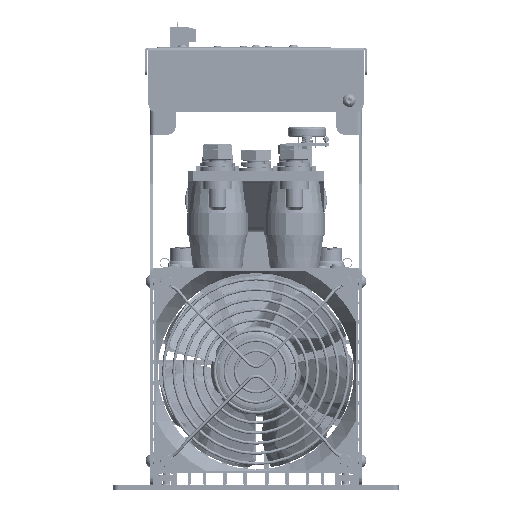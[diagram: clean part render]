
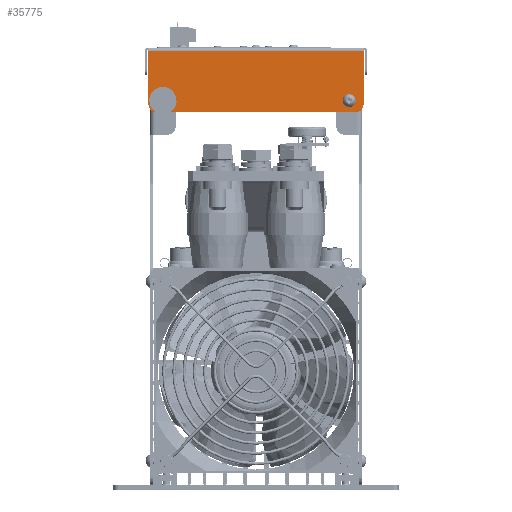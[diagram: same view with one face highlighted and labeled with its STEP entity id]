
A CAD part, front view. The second image highlights one B-rep face of the part: STEP entity #35775.
In plain terms, the highlighted planar face has unit normal (0, -1, 0).
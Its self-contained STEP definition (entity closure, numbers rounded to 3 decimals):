
#35775=ADVANCED_FACE('',(#87149,#87151,#87153),#87155,.F.);
#87149=FACE_BOUND('',#87150,.T.);
#87150=EDGE_LOOP('',(#103530,#103531,#103532,#103533,#103534,#103535));
#87151=FACE_BOUND('',#87152,.T.);
#87152=EDGE_LOOP('',(#103536));
#87153=FACE_BOUND('',#87154,.T.);
#87154=EDGE_LOOP('',(#103537));
#87155=PLANE('',#87156);
#87156=AXIS2_PLACEMENT_3D('',#87157,#87158,#87159);
#87157=CARTESIAN_POINT('',(63.,-222.5,0.));
#87158=DIRECTION('',(0.,1.,0.));
#87159=DIRECTION('',(0.,0.,1.));
#103530=ORIENTED_EDGE('',*,*,#112431,.T.);
#103531=ORIENTED_EDGE('',*,*,#112432,.T.);
#103532=ORIENTED_EDGE('',*,*,#112428,.T.);
#103533=ORIENTED_EDGE('',*,*,#112423,.F.);
#103534=ORIENTED_EDGE('',*,*,#112427,.T.);
#103535=ORIENTED_EDGE('',*,*,#112433,.T.);
#103536=ORIENTED_EDGE('',*,*,#112206,.T.);
#103537=ORIENTED_EDGE('',*,*,#112210,.T.);
#112206=EDGE_CURVE('',#124274,#124274,#124275,.T.);
#112210=EDGE_CURVE('',#124282,#124282,#124283,.T.);
#112423=EDGE_CURVE('',#124643,#124637,#124646,.T.);
#112427=EDGE_CURVE('',#124643,#124650,#124652,.T.);
#112428=EDGE_CURVE('',#124653,#124637,#124654,.T.);
#112431=EDGE_CURVE('',#124658,#124659,#124660,.T.);
#112432=EDGE_CURVE('',#124659,#124653,#124661,.T.);
#112433=EDGE_CURVE('',#124650,#124658,#124662,.T.);
#124274=VERTEX_POINT('',#191650);
#124275=CIRCLE('',#191651,2.25);
#124282=VERTEX_POINT('',#191670);
#124283=CIRCLE('',#191671,2.25);
#124637=VERTEX_POINT('',#192498);
#124643=VERTEX_POINT('',#192515);
#124646=LINE('',#192523,#192524);
#124650=VERTEX_POINT('',#192533);
#124652=LINE('',#192537,#192538);
#124653=VERTEX_POINT('',#192540);
#124654=LINE('',#192541,#192542);
#124658=VERTEX_POINT('',#192551);
#124659=VERTEX_POINT('',#192552);
#124660=LINE('',#192553,#192554);
#124661=CIRCLE('',#192556,5.);
#124662=CIRCLE('',#192560,5.);
#191650=CARTESIAN_POINT('',(54.5,-222.5,-27.75));
#191651=AXIS2_PLACEMENT_3D('',#191652,#191653,#191654);
#191652=CARTESIAN_POINT('',(54.5,-222.5,-30.));
#191653=DIRECTION('',(0.,1.,0.));
#191654=DIRECTION('',(0.,0.,-1.));
#191670=CARTESIAN_POINT('',(-54.5,-222.5,-27.75));
#191671=AXIS2_PLACEMENT_3D('',#191672,#191673,#191674);
#191672=CARTESIAN_POINT('',(-54.5,-222.5,-30.));
#191673=DIRECTION('',(0.,1.,0.));
#191674=DIRECTION('',(0.,0.,-1.));
#192498=CARTESIAN_POINT('',(63.,-222.5,-1.));
#192515=CARTESIAN_POINT('',(-63.,-222.5,-1.));
#192523=CARTESIAN_POINT('',(-63.,-222.5,-1.));
#192524=VECTOR('',#192525,1.);
#192525=DIRECTION('',(1.,0.,0.));
#192533=CARTESIAN_POINT('',(-63.,-222.5,-32.));
#192537=CARTESIAN_POINT('',(-63.,-222.5,-1.));
#192538=VECTOR('',#192539,1.);
#192539=DIRECTION('',(0.,0.,-1.));
#192540=CARTESIAN_POINT('',(63.,-222.5,-32.));
#192541=CARTESIAN_POINT('',(63.,-222.5,-32.));
#192542=VECTOR('',#192543,1.);
#192543=DIRECTION('',(0.,0.,1.));
#192551=CARTESIAN_POINT('',(-58.,-222.5,-37.));
#192552=CARTESIAN_POINT('',(58.,-222.5,-37.));
#192553=CARTESIAN_POINT('',(-58.,-222.5,-37.));
#192554=VECTOR('',#192555,1.);
#192555=DIRECTION('',(1.,0.,0.));
#192556=AXIS2_PLACEMENT_3D('',#192557,#192558,#192559);
#192557=CARTESIAN_POINT('',(58.,-222.5,-32.));
#192558=DIRECTION('',(0.,-1.,0.));
#192559=DIRECTION('',(0.,0.,-1.));
#192560=AXIS2_PLACEMENT_3D('',#192561,#192562,#192563);
#192561=CARTESIAN_POINT('',(-58.,-222.5,-32.));
#192562=DIRECTION('',(0.,-1.,0.));
#192563=DIRECTION('',(-1.,0.,0.));
